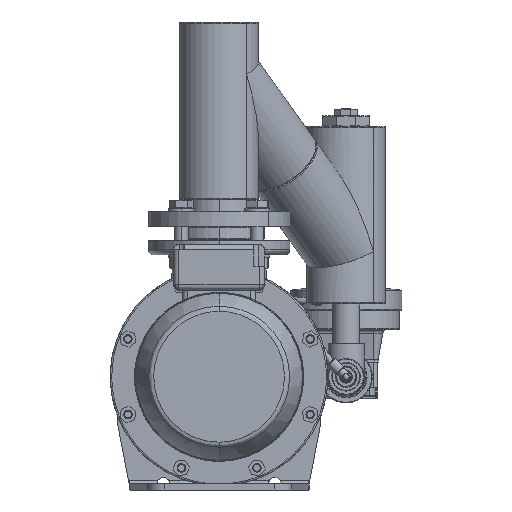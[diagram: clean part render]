
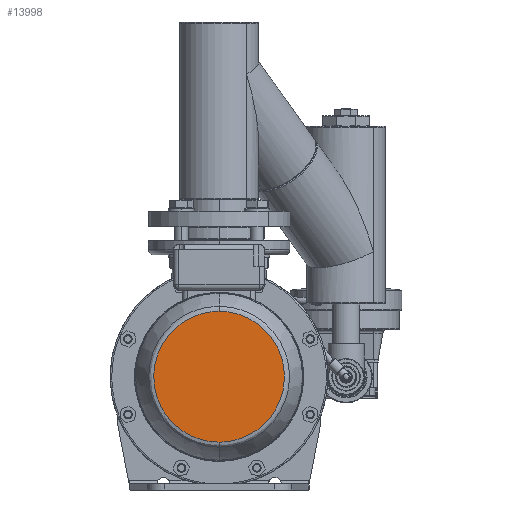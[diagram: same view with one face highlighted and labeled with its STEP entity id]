
A CAD part, front view. The second image highlights one B-rep face of the part: STEP entity #13998.
In plain terms, the highlighted planar face has unit normal (0, -1, 0).
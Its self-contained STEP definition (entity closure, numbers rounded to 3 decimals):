
#13956 = EDGE_LOOP ( 'NONE', ( #13993, #13997 ) ) ;
#13993 = ORIENTED_EDGE ( 'NONE', *, *, #95584, .F. ) ;
#13995 = EDGE_CURVE ( 'NONE', #95535, #95492, #37848, .T. ) ;
#13997 = ORIENTED_EDGE ( 'NONE', *, *, #13995, .F. ) ;
#13998 = ADVANCED_FACE ( 'NONE', ( #37799 ), #37830, .T. ) ;
#37799 = FACE_OUTER_BOUND ( 'NONE', #13956, .T. ) ;
#37805 = AXIS2_PLACEMENT_3D ( 'NONE', #37819, #37818, #37846 ) ;
#37818 = DIRECTION ( 'NONE',  ( 0., -1., 0. ) ) ;
#37819 = CARTESIAN_POINT ( 'NONE',  ( -154.478, -684.387, 25. ) ) ;
#37830 = PLANE ( 'NONE',  #37805 ) ;
#37842 = CARTESIAN_POINT ( 'NONE',  ( -154.478, -684.387, -51.193 ) ) ;
#37843 = CARTESIAN_POINT ( 'NONE',  ( -2.093, -684.387, -51.193 ) ) ;
#37844 = CARTESIAN_POINT ( 'NONE',  ( -2.093, -684.387, 101.193 ) ) ;
#37845 = CARTESIAN_POINT ( 'NONE',  ( -154.478, -684.387, 101.193 ) ) ;
#37846 = DIRECTION ( 'NONE',  ( 1., 0., 0. ) ) ;
#37848 =( BOUNDED_CURVE ( )  B_SPLINE_CURVE ( 3, ( #37845, #37844, #37843, #37842 ),
 .UNSPECIFIED., .F., .T. ) 
 B_SPLINE_CURVE_WITH_KNOTS ( ( 4, 4 ),
 ( 0., 1. ),
 .UNSPECIFIED. ) 
 CURVE ( )  GEOMETRIC_REPRESENTATION_ITEM ( )  RATIONAL_B_SPLINE_CURVE ( ( 1., 0.333, 0.333, 1. ) ) 
 REPRESENTATION_ITEM ( '' )  );
#66300 =( BOUNDED_CURVE ( )  B_SPLINE_CURVE ( 3, ( #67098, #66927, #66849, #67064 ),
 .UNSPECIFIED., .F., .T. ) 
 B_SPLINE_CURVE_WITH_KNOTS ( ( 4, 4 ),
 ( 0., 1. ),
 .UNSPECIFIED. ) 
 CURVE ( )  GEOMETRIC_REPRESENTATION_ITEM ( )  RATIONAL_B_SPLINE_CURVE ( ( 1., 0.333, 0.333, 1. ) ) 
 REPRESENTATION_ITEM ( '' )  );
#66694 = CARTESIAN_POINT ( 'NONE',  ( -154.478, -684.387, -51.193 ) ) ;
#66818 = CARTESIAN_POINT ( 'NONE',  ( -154.478, -684.387, 101.193 ) ) ;
#66849 = CARTESIAN_POINT ( 'NONE',  ( -306.864, -684.387, 101.193 ) ) ;
#66927 = CARTESIAN_POINT ( 'NONE',  ( -306.864, -684.387, -51.193 ) ) ;
#67064 = CARTESIAN_POINT ( 'NONE',  ( -154.478, -684.387, 101.193 ) ) ;
#67098 = CARTESIAN_POINT ( 'NONE',  ( -154.478, -684.387, -51.193 ) ) ;
#95492 = VERTEX_POINT ( 'NONE', #66694 ) ;
#95535 = VERTEX_POINT ( 'NONE', #66818 ) ;
#95584 = EDGE_CURVE ( 'NONE', #95492, #95535, #66300, .T. ) ;
